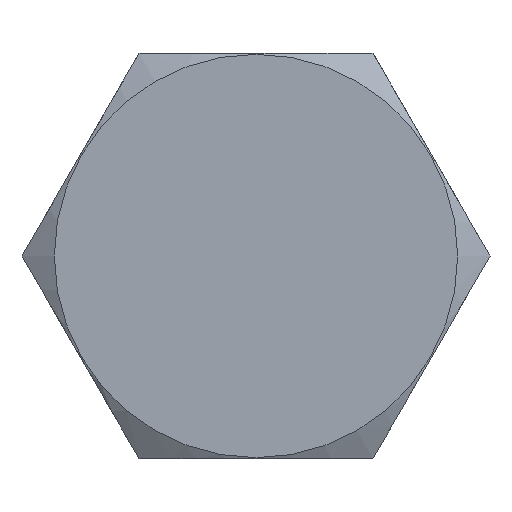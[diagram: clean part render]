
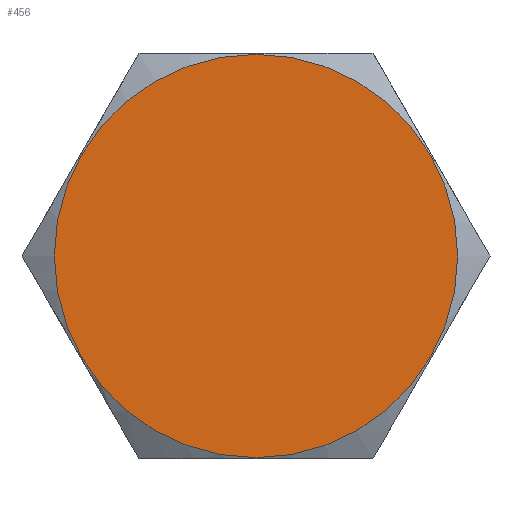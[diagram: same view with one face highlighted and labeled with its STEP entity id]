
A CAD part, front view. The second image highlights one B-rep face of the part: STEP entity #456.
In plain terms, the highlighted planar face has unit normal (0, -1, 0).
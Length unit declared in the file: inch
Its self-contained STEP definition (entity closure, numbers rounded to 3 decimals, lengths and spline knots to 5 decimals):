
#42=PLANE('',#520);
#67=FACE_OUTER_BOUND('',#96,.T.);
#96=EDGE_LOOP('',(#415));
#163=CIRCLE('',#519,0.43531);
#224=VERTEX_POINT('',#869);
#289=EDGE_CURVE('',#224,#224,#163,.T.);
#415=ORIENTED_EDGE('',*,*,#289,.F.);
#456=ADVANCED_FACE('',(#67),#42,.T.);
#519=AXIS2_PLACEMENT_3D('',#870,#637,#638);
#520=AXIS2_PLACEMENT_3D('',#872,#640,#641);
#637=DIRECTION('center_axis',(0.,1.,0.));
#638=DIRECTION('ref_axis',(0.,0.,1.));
#640=DIRECTION('center_axis',(0.,-1.,0.));
#641=DIRECTION('ref_axis',(0.,0.,-1.));
#869=CARTESIAN_POINT('',(0.,0.,-0.43531));
#870=CARTESIAN_POINT('Origin',(0.,0.,0.));
#872=CARTESIAN_POINT('Origin',(0.,0.,0.));
